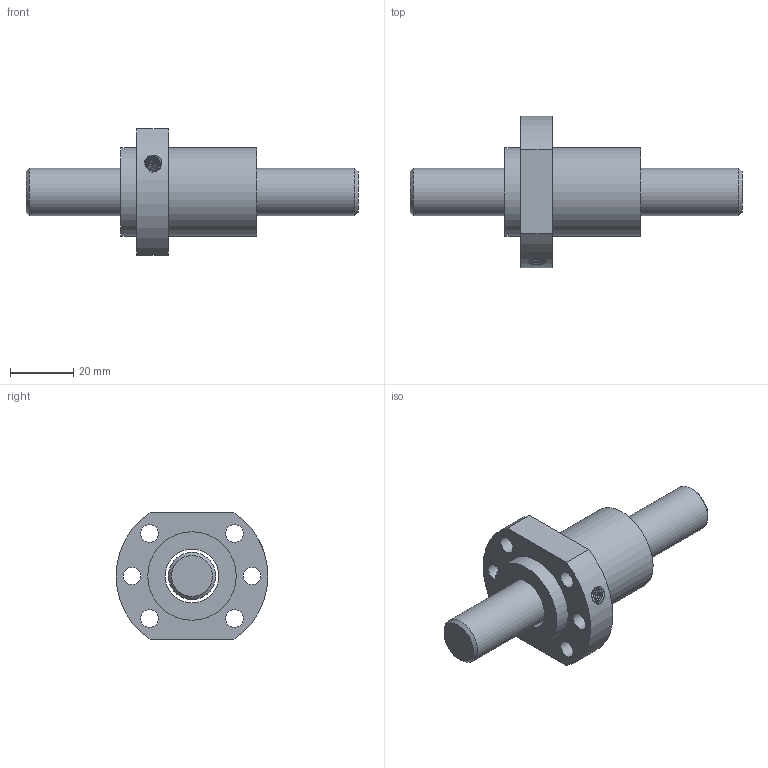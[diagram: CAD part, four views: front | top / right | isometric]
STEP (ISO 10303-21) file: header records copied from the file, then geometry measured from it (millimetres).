
FILE_DESCRIPTION(/* description */ ('Unknown','CAx-IF Rec.Pracs.---Representation and Presentation of Product Manufacturing Information (PMI)---4.0---2014-10-13','CAx-IF Rec.Pracs.---3D Tessellated Geometry---0.4---2014-09-14','2;1'),/* implementation_level */ '2;1');
FILE_NAME(/* name */ 'SFA1616-1.8',/* time_stamp */ '2020-12-08T08:11:54+08:00',/* author */ ('Unknown'),/* organization */ ('Unknown'),/* preprocessor_version */ 'ST-DEVELOPER v16.7',/* originating_system */ 'Solid Edge',/* authorisation */ 'Unknown');
FILE_SCHEMA (('AP242_MANAGED_MODEL_BASED_3D_ENGINEERING_MIM_LF { 1 0 10303 442 1 1 4 }'));
Length unit declared in the file: millimetre
Products named in the file (1): SFA1616-1
Bounding box: 105 x 48 x 40 mm (x, y, z)
Volume: 44024.2 mm3; surface area: 15819.7 mm2
Topology: 2 solids, 2 shells, 30 faces, 69 edges, 45 vertices
Faces by surface type: cylinder 16, plane 9, cone 3, bspline 2
Full cylindrical faces by diameter (mm): 4 x1, 4.917 x1, 5.5 x6, 15 x1, 17 x1, 28 x2
Entity records: 2932 total; most frequent: CARTESIAN_POINT 2230, DIRECTION 134, ORIENTED_EDGE 100, AXIS2_PLACEMENT_3D 64, EDGE_LOOP 63, FACE_BOUND 63, EDGE_CURVE 50, VERTEX_POINT 41
